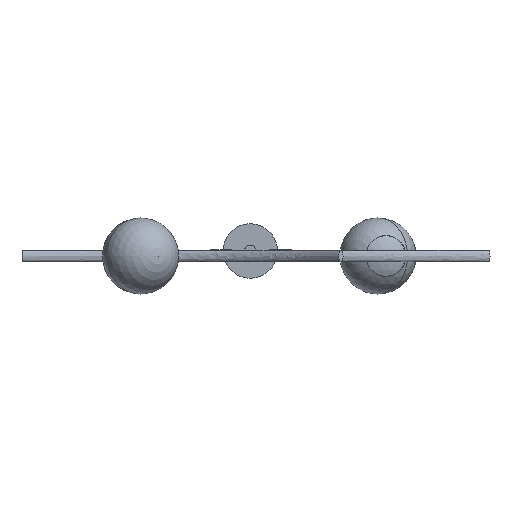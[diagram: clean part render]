
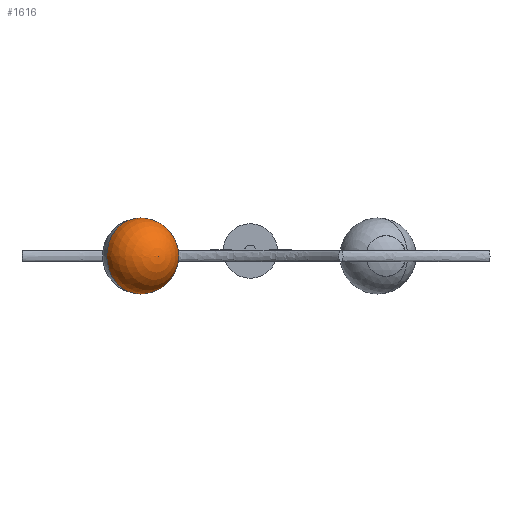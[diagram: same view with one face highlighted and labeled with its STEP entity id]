
A CAD part, front view. The second image highlights one B-rep face of the part: STEP entity #1616.
In plain terms, the highlighted spherical face has radius 99.399 mm.
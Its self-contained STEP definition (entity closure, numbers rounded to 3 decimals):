
#71 = DIRECTION ( 'NONE',  ( -0.887, -0.462, 0. ) ) ;
#126 = VERTEX_POINT ( 'NONE', #1783 ) ;
#190 = DIRECTION ( 'NONE',  ( -0.887, -0.462, 0. ) ) ;
#230 = ORIENTED_EDGE ( 'NONE', *, *, #1134, .F. ) ;
#280 = DIRECTION ( 'NONE',  ( 0.462, -0.887, 0. ) ) ;
#317 = AXIS2_PLACEMENT_3D ( 'NONE', #1891, #280, #71 ) ;
#786 = ORIENTED_EDGE ( 'NONE', *, *, #1221, .T. ) ;
#812 = CIRCLE ( 'NONE', #2116, 99.399 ) ;
#890 = CIRCLE ( 'NONE', #2192, 99.399 ) ;
#940 = SPHERICAL_SURFACE ( 'NONE', #317, 99.399 ) ;
#1134 = EDGE_CURVE ( 'NONE', #126, #1136, #890, .T. ) ;
#1136 = VERTEX_POINT ( 'NONE', #1833 ) ;
#1221 = EDGE_CURVE ( 'NONE', #126, #1136, #812, .T. ) ;
#1457 = FACE_OUTER_BOUND ( 'NONE', #1634, .T. ) ;
#1616 = ADVANCED_FACE ( 'NONE', ( #1457 ), #940, .T. ) ;
#1624 = DIRECTION ( 'NONE',  ( -0.462, 0.887, 0. ) ) ;
#1634 = EDGE_LOOP ( 'NONE', ( #230, #786 ) ) ;
#1783 = CARTESIAN_POINT ( 'NONE',  ( 3331.603, -1280.051, 3106.403 ) ) ;
#1804 = CARTESIAN_POINT ( 'NONE',  ( 3331.603, -1280.051, 3205.801 ) ) ;
#1833 = CARTESIAN_POINT ( 'NONE',  ( 3331.603, -1280.051, 3305.2 ) ) ;
#1886 = DIRECTION ( 'NONE',  ( 0.462, -0.887, 0. ) ) ;
#1891 = CARTESIAN_POINT ( 'NONE',  ( 3331.603, -1280.051, 3205.801 ) ) ;
#1899 = CARTESIAN_POINT ( 'NONE',  ( 3331.603, -1280.051, 3205.801 ) ) ;
#2116 = AXIS2_PLACEMENT_3D ( 'NONE', #1899, #1886, #2239 ) ;
#2192 = AXIS2_PLACEMENT_3D ( 'NONE', #1804, #1624, #190 ) ;
#2239 = DIRECTION ( 'NONE',  ( 0.887, 0.462, 0. ) ) ;
